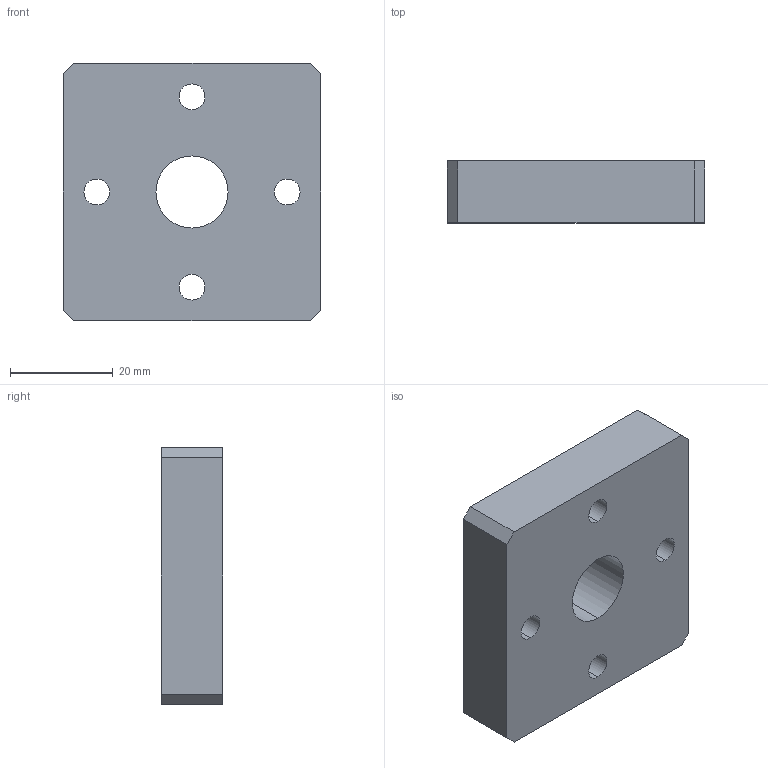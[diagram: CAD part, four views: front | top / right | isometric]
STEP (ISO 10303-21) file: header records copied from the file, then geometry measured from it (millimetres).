
FILE_DESCRIPTION (( 'STEP AP203' ), '1' );
FILE_NAME ('PF5050.STEP', '2024-02-19T06:39:12', ( '' ), ( '' ), 'SwSTEP 2.0', 'SolidWorks 2022', '' );
FILE_SCHEMA (( 'CONFIG_CONTROL_DESIGN' ));
Length unit declared in the file: millimetre
Products named in the file (1): PF5050
Bounding box: 50 x 12 x 50 mm (x, y, z)
Volume: 27114.3 mm3; surface area: 8144.6 mm2
Topology: 1 solids, 1 shells, 20 faces, 54 edges, 36 vertices
Faces by surface type: cylinder 10, plane 10
Entity records: 735 total; most frequent: DIRECTION 116, CARTESIAN_POINT 111, ORIENTED_EDGE 108, EDGE_CURVE 54, AXIS2_PLACEMENT_3D 41, VERTEX_POINT 36, VECTOR 34, LINE 34
